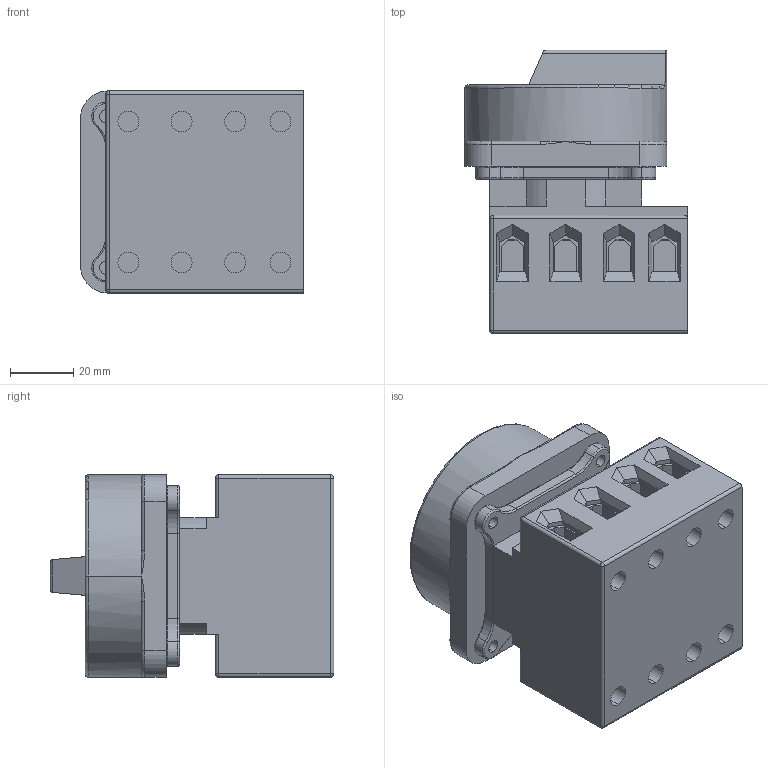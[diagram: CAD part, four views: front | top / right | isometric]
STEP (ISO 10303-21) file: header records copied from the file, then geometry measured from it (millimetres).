
FILE_DESCRIPTION (( 'STEP AP203' ), '1' );
FILE_NAME ('LTS63_80 EH4 A4.STEP', '2014-05-13T08:22:19', ( '' ), ( '' ), 'SwSTEP 2.0', 'SolidWorks 2014', '' );
FILE_SCHEMA (( 'CONFIG_CONTROL_DESIGN' ));
Length unit declared in the file: millimetre
Products named in the file (4): LTS63_80 EH4 A4; Schalterkörper LTS63_80 E A4_ohne panel; Frontplatte 64x64; SV4_64x64
Assembly tree (3 placements, depth 2):
  LTS63_80 EH4 A4
    Schalterkörper LTS63_80 E A4_ohne panel
    Frontplatte 64x64
    SV4_64x64
Bounding box: 70.5 x 89.7 x 64 mm (x, y, z)
Volume: 238025.5 mm3; surface area: 49212.4 mm2
Topology: 3 solids, 3 shells, 331 faces, 823 edges, 504 vertices
Faces by surface type: plane 196, cylinder 85, torus 36, bspline 10, sphere 4
Entity records: 10375 total; most frequent: CARTESIAN_POINT 2093, DIRECTION 1669, ORIENTED_EDGE 1622, EDGE_CURVE 811, AXIS2_PLACEMENT_3D 564, VECTOR 541, LINE 541, VERTEX_POINT 504
